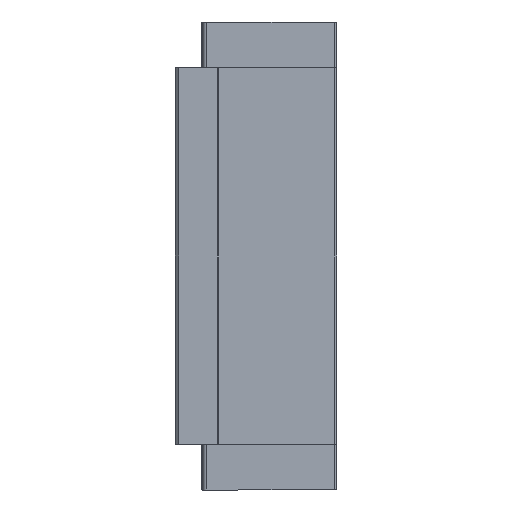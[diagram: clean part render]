
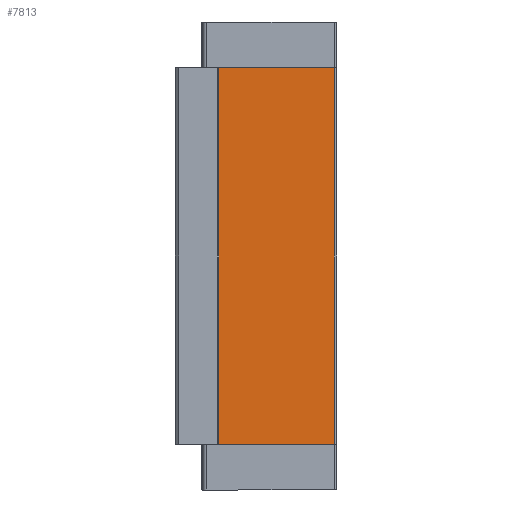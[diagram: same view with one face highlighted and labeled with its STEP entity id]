
A CAD part, left-side view. The second image highlights one B-rep face of the part: STEP entity #7813.
In plain terms, the highlighted planar face has unit normal (-1, 0, 0).
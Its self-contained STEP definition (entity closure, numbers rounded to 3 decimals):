
#26 = ORIENTED_EDGE ( 'NONE', *, *, #6421, .T. ) ;
#353 = VECTOR ( 'NONE', #1012, 1000. ) ;
#455 = DIRECTION ( 'NONE',  ( 0., 0., -1. ) ) ;
#478 = DIRECTION ( 'NONE',  ( 1., 0., 0. ) ) ;
#515 = PLANE ( 'NONE',  #3118 ) ;
#586 = CARTESIAN_POINT ( 'NONE',  ( -49.5, 14., -96.9 ) ) ;
#746 = CARTESIAN_POINT ( 'NONE',  ( -49.5, 13., -96.9 ) ) ;
#1012 = DIRECTION ( 'NONE',  ( 0., 0., 1. ) ) ;
#1099 = EDGE_CURVE ( 'NONE', #5935, #6191, #9409, .T. ) ;
#1364 = CARTESIAN_POINT ( 'NONE',  ( -49.5, 62., -96.9 ) ) ;
#1881 = VERTEX_POINT ( 'NONE', #3297 ) ;
#2051 = ORIENTED_EDGE ( 'NONE', *, *, #5005, .F. ) ;
#2553 = ORIENTED_EDGE ( 'NONE', *, *, #1099, .F. ) ;
#2577 = VECTOR ( 'NONE', #5424, 1000. ) ;
#2684 = LINE ( 'NONE', #5879, #2577 ) ;
#3062 = VECTOR ( 'NONE', #5345, 1000. ) ;
#3118 = AXIS2_PLACEMENT_3D ( 'NONE', #746, #478, #455 ) ;
#3129 = LINE ( 'NONE', #5165, #3062 ) ;
#3297 = CARTESIAN_POINT ( 'NONE',  ( -49.5, 62., -77.9 ) ) ;
#3826 = CARTESIAN_POINT ( 'NONE',  ( -49.5, 62., 77.9 ) ) ;
#3990 = EDGE_CURVE ( 'NONE', #1881, #6746, #8593, .T. ) ;
#5005 = EDGE_CURVE ( 'NONE', #6746, #5935, #3129, .T. ) ;
#5165 = CARTESIAN_POINT ( 'NONE',  ( -49.5, 0., 77.9 ) ) ;
#5345 = DIRECTION ( 'NONE',  ( 0., -1., 0. ) ) ;
#5424 = DIRECTION ( 'NONE',  ( 0., -1., 0. ) ) ;
#5660 = DIRECTION ( 'NONE',  ( 0., 0., -1. ) ) ;
#5879 = CARTESIAN_POINT ( 'NONE',  ( -49.5, 0., -77.9 ) ) ;
#5935 = VERTEX_POINT ( 'NONE', #7202 ) ;
#6191 = VERTEX_POINT ( 'NONE', #9537 ) ;
#6421 = EDGE_CURVE ( 'NONE', #1881, #6191, #2684, .T. ) ;
#6670 = ORIENTED_EDGE ( 'NONE', *, *, #3990, .F. ) ;
#6746 = VERTEX_POINT ( 'NONE', #3826 ) ;
#7202 = CARTESIAN_POINT ( 'NONE',  ( -49.5, 14., 77.9 ) ) ;
#7214 = EDGE_LOOP ( 'NONE', ( #2051, #6670, #26, #2553 ) ) ;
#7813 = ADVANCED_FACE ( 'NONE', ( #8348 ), #515, .F. ) ;
#8348 = FACE_OUTER_BOUND ( 'NONE', #7214, .T. ) ;
#8593 = LINE ( 'NONE', #1364, #353 ) ;
#9362 = VECTOR ( 'NONE', #5660, 1000. ) ;
#9409 = LINE ( 'NONE', #586, #9362 ) ;
#9537 = CARTESIAN_POINT ( 'NONE',  ( -49.5, 14., -77.9 ) ) ;
